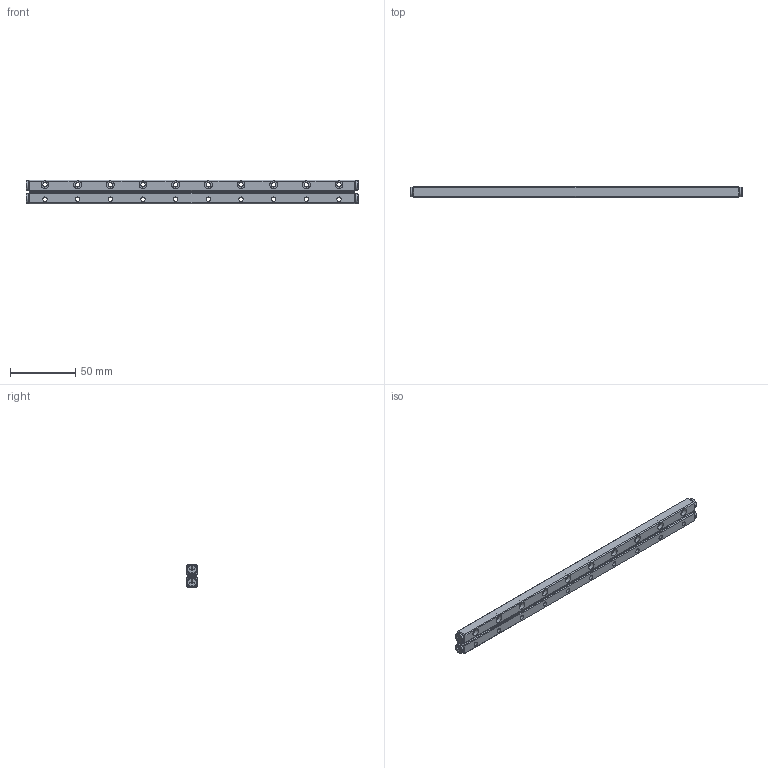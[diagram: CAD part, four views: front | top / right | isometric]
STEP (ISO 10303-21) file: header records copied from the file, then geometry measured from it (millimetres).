
FILE_DESCRIPTION (( 'STEP AP203' ), '1' );
FILE_NAME ('組合件-軌道組-GRV03-0250H-48Z-模糊化軌道組.STEP', '2022-12-19T08:05:28', ( '' ), ( '' ), 'SwSTEP 2.0', 'SolidWorks 2019', '' );
FILE_SCHEMA (( 'CONFIG_CONTROL_DESIGN' ));
Length unit declared in the file: millimetre
Products named in the file (1): 組合件-軌道組-GRV03-0250H-48Z-模糊化軌道組
Bounding box: 254 x 8 x 18 mm (x, y, z)
Volume: 30700.1 mm3; surface area: 23319.8 mm2
Topology: 3 solids, 31 shells, 1006 faces, 2790 edges, 1802 vertices
Faces by surface type: plane 636, cylinder 174, torus 112, cone 84
Full cylindrical faces by diameter (mm): 2 x4, 2.55 x28, 3.4 x20, 6 x20, 7.5 x4
Entity records: 31325 total; most frequent: CARTESIAN_POINT 8047, ORIENTED_EDGE 5112, DIRECTION 4510, EDGE_CURVE 2556, VERTEX_POINT 1712, AXIS2_PLACEMENT_3D 1695, EDGE_LOOP 1194, VECTOR 1120
